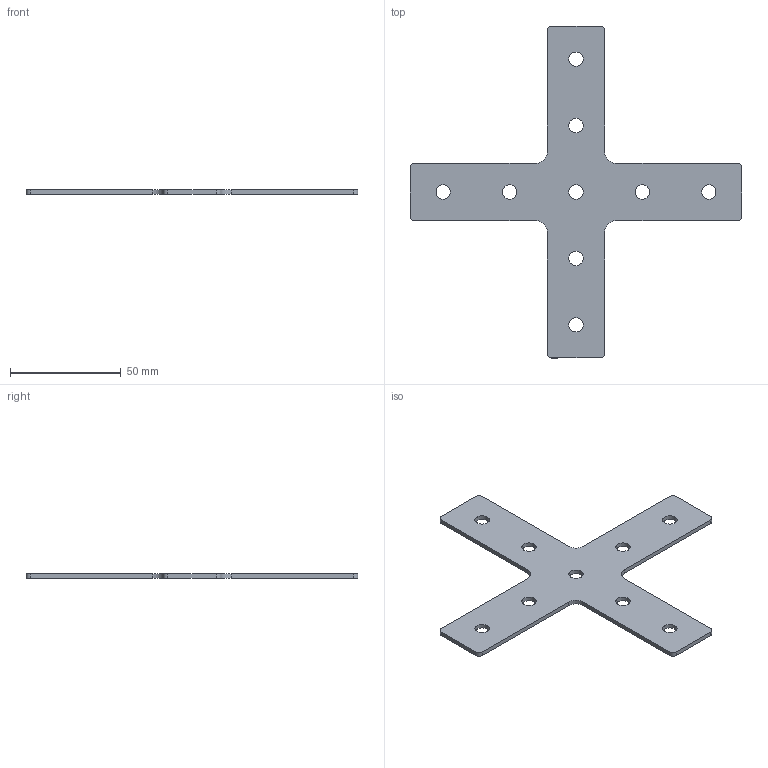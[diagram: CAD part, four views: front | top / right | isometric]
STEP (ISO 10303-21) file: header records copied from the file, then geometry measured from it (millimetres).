
FILE_DESCRIPTION(/* description */ ('Unknown'),/* implementation_level */ '2;1');
FILE_NAME(/* name */ 'CJP3030C',/* time_stamp */ '2018-12-06T15:01:09+00:00',/* author */ ('Unknown'),/* organization */ ('Unknown'),/* preprocessor_version */ 'ST-DEVELOPER v16.7',/* originating_system */ 'DEX',/* authorisation */ $);
FILE_SCHEMA (('AUTOMOTIVE_DESIGN {1 0 10303 214 3 1 1}'));
Length unit declared in the file: millimetre
Products named in the file (1): CJP3030C
Bounding box: 150 x 150 x 2 mm (x, y, z)
Volume: 13679.9 mm3; surface area: 15216.6 mm2
Topology: 1 solids, 1 shells, 35 faces, 99 edges, 66 vertices
Faces by surface type: cylinder 21, plane 14
Full cylindrical faces by diameter (mm): 6.5 x9
Entity records: 1176 total; most frequent: DIRECTION 204, CARTESIAN_POINT 192, ORIENTED_EDGE 180, EDGE_CURVE 90, AXIS2_PLACEMENT_3D 78, VERTEX_POINT 66, EDGE_LOOP 62, FACE_BOUND 62
